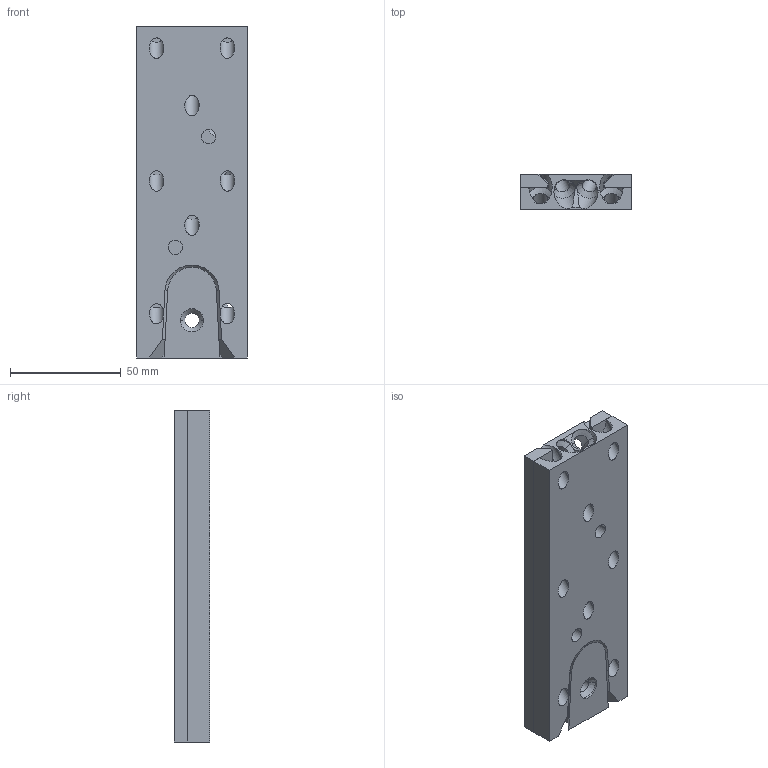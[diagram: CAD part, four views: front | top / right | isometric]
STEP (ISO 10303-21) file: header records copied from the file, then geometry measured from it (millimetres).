
FILE_DESCRIPTION(('STEP AP242'),'1');
FILE_NAME('OPO_86.880.31_volu_3d.stp','2026-04-30T13:30:21',(' '),(' '),'Spatial InterOp 3D',' ',' ');
FILE_SCHEMA(('AP242_MANAGED_MODEL_BASED_3D_ENGINEERING_MIM_LF {1 0 10303 442 1 1 4}'));
Length unit declared in the file: millimetre
Products named in the file (1): 1
Bounding box: 50 x 16 x 150 mm (x, y, z)
Volume: 106473.6 mm3; surface area: 39825.2 mm2
Topology: 2 solids, 2 shells, 240 faces, 599 edges, 364 vertices
Faces by surface type: cylinder 122, plane 66, cone 50, bspline 2
Entity records: 9274 total; most frequent: DIRECTION 1340, CARTESIAN_POINT 1330, ORIENTED_EDGE 1198, EDGE_CURVE 599, AXIS2_PLACEMENT_3D 510, VERTEX_POINT 364, LINE 320, VECTOR 320
